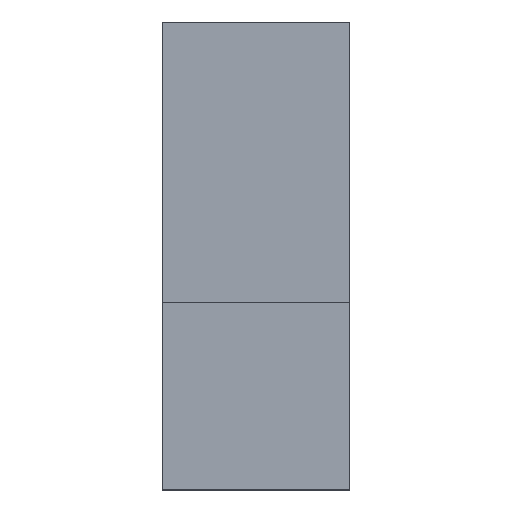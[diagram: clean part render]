
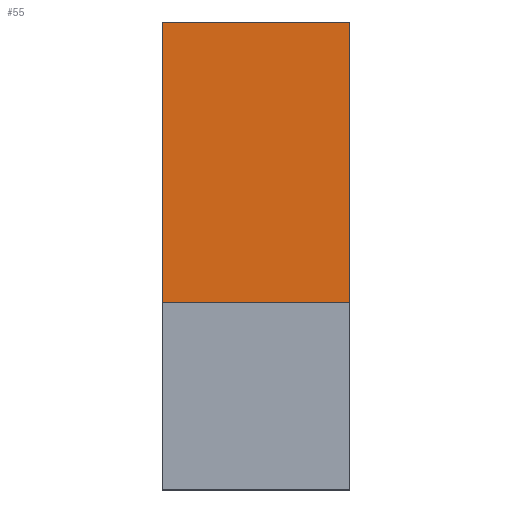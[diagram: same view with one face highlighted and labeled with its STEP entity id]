
A CAD part, front view. The second image highlights one B-rep face of the part: STEP entity #55.
In plain terms, the highlighted planar face has unit normal (0, -1, 0).
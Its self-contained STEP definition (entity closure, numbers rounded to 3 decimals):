
#55=ADVANCED_FACE('',(#73),#74,.F.);
#73=FACE_OUTER_BOUND('',#100,.T.);
#74=PLANE('',#101);
#100=EDGE_LOOP('',(#147,#148,#149,#150));
#101=AXIS2_PLACEMENT_3D('',#151,#152,#153);
#147=ORIENTED_EDGE('',*,*,#229,.T.);
#148=ORIENTED_EDGE('',*,*,#230,.F.);
#149=ORIENTED_EDGE('',*,*,#231,.F.);
#150=ORIENTED_EDGE('',*,*,#232,.T.);
#151=CARTESIAN_POINT('',(2.5,0.0,7.5));
#152=DIRECTION('',(0.,1.0,0.));
#153=DIRECTION('',(0.,0.,1.0));
#229=EDGE_CURVE('',#269,#270,#271,.T.);
#230=EDGE_CURVE('',#272,#270,#273,.T.);
#231=EDGE_CURVE('',#274,#272,#275,.T.);
#232=EDGE_CURVE('',#274,#269,#276,.T.);
#269=VERTEX_POINT('',#328);
#270=VERTEX_POINT('',#329);
#271=LINE('',#330,#331);
#272=VERTEX_POINT('',#332);
#273=LINE('',#333,#334);
#274=VERTEX_POINT('',#335);
#275=LINE('',#336,#337);
#276=LINE('',#338,#339);
#328=CARTESIAN_POINT('',(1.,0.,11.0));
#329=CARTESIAN_POINT('',(1.,0.,5.));
#330=CARTESIAN_POINT('',(1.,0.,7.274));
#331=VECTOR('',#393,1.0);
#332=CARTESIAN_POINT('',(5.0,0.0,5.0));
#333=CARTESIAN_POINT('',(2.5,0.0,5.0));
#334=VECTOR('',#394,1.0);
#335=CARTESIAN_POINT('',(5.,0.,11.0));
#336=CARTESIAN_POINT('',(5.0,0.0,7.5));
#337=VECTOR('',#395,1.0);
#338=CARTESIAN_POINT('',(5.,0.,11.0));
#339=VECTOR('',#396,1.0);
#393=DIRECTION('',(0.,0.,-1.0));
#394=DIRECTION('',(-1.0,0.,0.0));
#395=DIRECTION('',(0.,0.,-1.0));
#396=DIRECTION('',(-1.0,0.,0.0));
